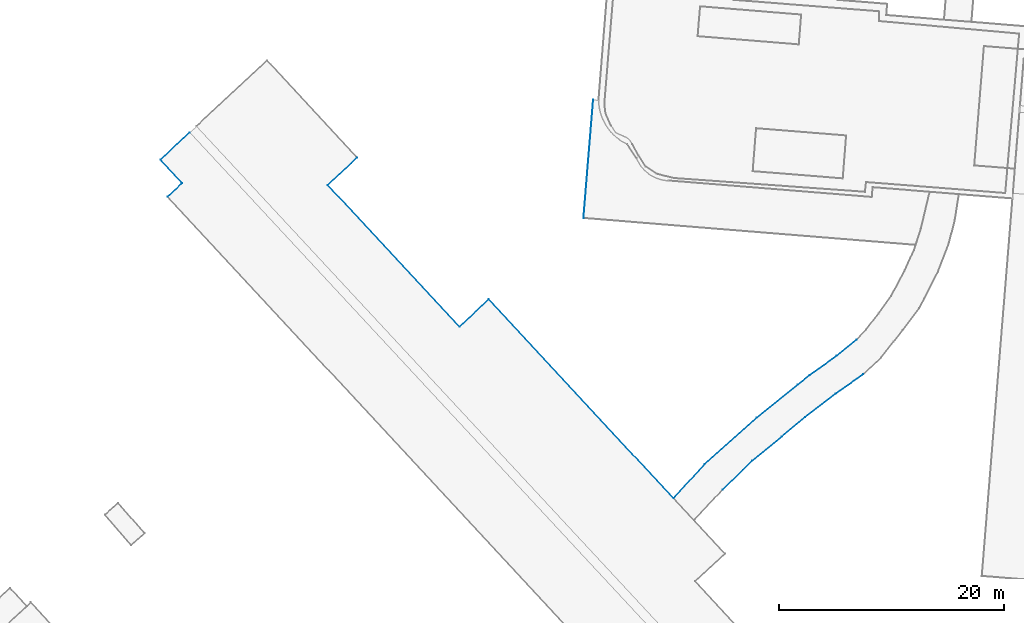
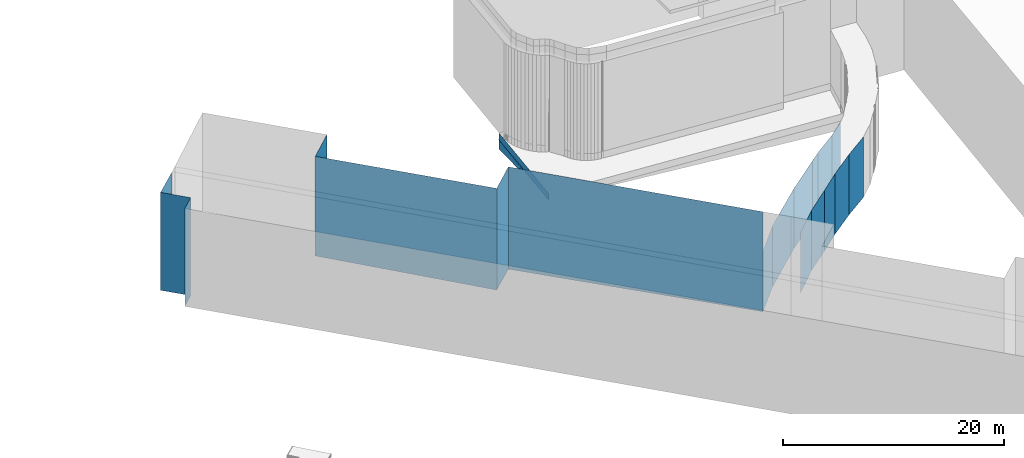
# Not in any storey, part 33 of 136: 21 walls.
"""IFC4 building model written with IfcOpenShell, lengths in metres."""

from ifc_helpers import new_model, entity, si_unit, converted_unit, origin, place, context, subcontext, project, spatial, face_set, surface_model, element, save


model = new_model("IFC4")

# Units and contexts
model_context = context("Model", 3, precision=1e-05, world=origin())
body_context = subcontext(model_context, "Body", "Model", "MODEL_VIEW")
ifc_project = project(units=[converted_unit("PLANEANGLEUNIT", "DEGREE", entity("IfcRatioMeasure", 0.0174532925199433), si_unit("PLANEANGLEUNIT", "RADIAN"), dimensions=[0, 0, 0, 0, 0, 0, 0]), si_unit("AREAUNIT", "SQUARE_METRE"), si_unit("LENGTHUNIT", "METRE")], contexts=[model_context])

# Site, building
site_placement = place(None, origin())
site = spatial("IfcSite", under=ifc_project, at=site_placement, Name="_site")
building_1_placement = place(site_placement, origin())
building_1 = spatial("IfcBuilding", under=site, at=building_1_placement, Name="_building")

# Walls
wall_1_placement = place(building_1_placement, origin())
element("IfcWall", 1, at=wall_1_placement, inside=building_1, Name="Wall", PredefinedType="NOTDEFINED", context=body_context, shape_type="SurfaceModel", body=[
    surface_model("IfcFaceBasedSurfaceModel", [(136.9, 51.021, 48.81), (138.21, 52.24, 48.81), (138.21, 52.24, 38.0), (136.9, 51.021, 38.0)], [face_set([[[0, 1, 2, 3]]])]),
])
wall_2_placement = place(building_1_placement, origin())
element("IfcWall", 2, at=wall_2_placement, inside=building_1, Name="Wall", PredefinedType="NOTDEFINED", context=body_context, shape_type="SurfaceModel", body=[
    surface_model("IfcFaceBasedSurfaceModel", [(165.41, 41.91, 48.95), (181.81, 24.26, 48.95), (181.81, 24.26, 37.91), (165.41, 41.91, 37.647)], [face_set([[[0, 1, 2, 3]]])]),
])
wall_3_placement = place(building_1_placement, origin())
element("IfcWall", 3, at=wall_3_placement, inside=building_1, Name="Wall", PredefinedType="NOTDEFINED", context=body_context, shape_type="SurfaceModel", body=[
    surface_model("IfcFaceBasedSurfaceModel", [(151.12, 52.07, 48.95), (162.81, 39.49, 48.95), (162.81, 39.49, 37.717), (151.12, 52.07, 37.955)], [face_set([[[0, 1, 2, 3]]])]),
])
wall_4_placement = place(building_1_placement, origin())
element("IfcWall", 4, at=wall_4_placement, inside=building_1, Name="Wall", PredefinedType="NOTDEFINED", context=body_context, shape_type="SurfaceModel", body=[
    surface_model("IfcFaceBasedSurfaceModel", [(136.27, 54.32, 48.81), (138.87, 56.73, 48.72), (138.87, 56.73, 37.988), (136.27, 54.32, 38.0)], [face_set([[[0, 1, 2, 3]]])]),
])
wall_5_placement = place(building_1_placement, origin())
element("IfcWall", 5, at=wall_5_placement, inside=building_1, Name="Wall", PredefinedType="NOTDEFINED", context=body_context, shape_type="SurfaceModel", body=[
    surface_model("IfcFaceBasedSurfaceModel", [(153.74, 54.51, 48.95), (151.12, 52.07, 48.95), (151.12, 52.07, 37.955), (153.74, 54.51, 37.788)], [face_set([[[0, 1, 2, 3]]])]),
])
wall_6_placement = place(building_1_placement, origin())
element("IfcWall", 6, at=wall_6_placement, inside=building_1, Name="Wall", PredefinedType="NOTDEFINED", context=body_context, shape_type="SurfaceModel", body=[
    surface_model("IfcFaceBasedSurfaceModel", [(162.81, 39.49, 48.95), (165.41, 41.91, 48.95), (165.41, 41.91, 37.647), (162.81, 39.49, 37.717)], [face_set([[[0, 1, 2, 3]]])]),
])
wall_7_placement = place(building_1_placement, origin())
element("IfcWall", 7, at=wall_7_placement, inside=building_1, Name="Wall", PredefinedType="NOTDEFINED", context=body_context, shape_type="SurfaceModel", body=[
    surface_model("IfcFaceBasedSurfaceModel", [(138.21, 52.24, 48.81), (136.27, 54.32, 48.81), (136.27, 54.32, 38.0), (138.21, 52.24, 38.0)], [face_set([[[0, 1, 2, 3]]])]),
])

# Building
building_2_placement = place(site_placement, origin())
building_2 = spatial("IfcBuilding", under=site, at=building_2_placement, Name="_building")

# Walls
wall_8_placement = place(building_2_placement, origin())
element("IfcWall", 8, at=wall_8_placement, inside=building_2, Name="Wall", PredefinedType="NOTDEFINED", context=body_context, shape_type="SurfaceModel", body=[
    surface_model("IfcFaceBasedSurfaceModel", [(196.29, 36.9, 44.65), (198.06, 38.351, 44.65), (198.06, 38.351, 38.0), (196.29, 36.9, 38.0)], [face_set([[[0, 1, 2, 3]]])]),
])
wall_9_placement = place(building_2_placement, origin())
element("IfcWall", 9, at=wall_9_placement, inside=building_2, Name="Wall", PredefinedType="NOTDEFINED", context=body_context, shape_type="SurfaceModel", body=[
    surface_model("IfcFaceBasedSurfaceModel", [(184.58, 27.3, 44.65), (189.19, 31.4, 44.65), (189.19, 31.4, 38.0), (184.58, 27.3, 37.857)], [face_set([[[0, 1, 2, 3]]])]),
])
wall_10_placement = place(building_2_placement, origin())
element("IfcWall", 10, at=wall_10_placement, inside=building_2, Name="Wall", PredefinedType="NOTDEFINED", context=body_context, shape_type="SurfaceModel", body=[
    surface_model("IfcFaceBasedSurfaceModel", [(173.81, 49.13, 37.93), (174.67, 59.64, 37.93), (174.67, 59.64, 36.93), (173.81, 49.13, 37.916)], [face_set([[[0, 1, 2, 3]]])]),
])
wall_11_placement = place(building_2_placement, origin())
element("IfcWall", 11, at=wall_11_placement, inside=building_2, Name="Wall", PredefinedType="NOTDEFINED", context=body_context, shape_type="SurfaceModel", body=[
    surface_model("IfcFaceBasedSurfaceModel", [(192.82, 34.33, 44.65), (193.89, 35.19, 44.65), (193.89, 35.19, 38.0), (192.82, 34.33, 38.0)], [face_set([[[0, 1, 2, 3]]])]),
])
wall_12_placement = place(building_2_placement, origin())
element("IfcWall", 12, at=wall_12_placement, inside=building_2, Name="Wall", PredefinedType="NOTDEFINED", context=body_context, shape_type="SurfaceModel", body=[
    surface_model("IfcFaceBasedSurfaceModel", [(198.65, 35.26, 44.65), (196.18, 33.55, 44.65), (196.18, 33.55, 37.977), (198.65, 35.26, 37.971)], [face_set([[[0, 1, 2, 3]]])]),
])
wall_13_placement = place(building_2_placement, origin())
element("IfcWall", 13, at=wall_13_placement, inside=building_2, Name="Wall", PredefinedType="NOTDEFINED", context=body_context, shape_type="SurfaceModel", body=[
    surface_model("IfcFaceBasedSurfaceModel", [(188.79, 27.58, 44.65), (186.17, 25.04, 44.65), (186.17, 25.04, 37.935), (188.79, 27.58, 37.992)], [face_set([[[0, 1, 2, 3]]])]),
])
wall_14_placement = place(building_2_placement, origin())
element("IfcWall", 14, at=wall_14_placement, inside=building_2, Name="Wall", PredefinedType="NOTDEFINED", context=body_context, shape_type="SurfaceModel", body=[
    surface_model("IfcFaceBasedSurfaceModel", [(193.89, 35.19, 44.65), (196.29, 36.9, 44.65), (196.29, 36.9, 38.0), (193.89, 35.19, 38.0)], [face_set([[[0, 1, 2, 3]]])]),
])
wall_15_placement = place(building_2_placement, origin())
element("IfcWall", 15, at=wall_15_placement, inside=building_2, Name="Wall", PredefinedType="NOTDEFINED", context=body_context, shape_type="SurfaceModel", body=[
    surface_model("IfcFaceBasedSurfaceModel", [(189.19, 31.4, 44.65), (192.82, 34.33, 44.65), (192.82, 34.33, 38.0), (189.19, 31.4, 38.0)], [face_set([[[0, 1, 2, 3]]])]),
])
wall_16_placement = place(building_2_placement, origin())
element("IfcWall", 16, at=wall_16_placement, inside=building_2, Name="Wall", PredefinedType="NOTDEFINED", context=body_context, shape_type="SurfaceModel", body=[
    surface_model("IfcFaceBasedSurfaceModel", [(173.81, 49.13, 37.93), (174.67, 59.64, 37.93), (174.67, 59.64, 38.68), (173.81, 49.13, 38.68)], [face_set([[[0, 1, 2, 3]]])]),
])
wall_17_placement = place(building_2_placement, origin())
element("IfcWall", 17, at=wall_17_placement, inside=building_2, Name="Wall", PredefinedType="NOTDEFINED", context=body_context, shape_type="SurfaceModel", body=[
    surface_model("IfcFaceBasedSurfaceModel", [(193.48, 31.48, 44.65), (191.38, 29.71, 44.65), (191.38, 29.71, 37.971), (193.48, 31.48, 37.976)], [face_set([[[0, 1, 2, 3]]])]),
])
wall_18_placement = place(building_2_placement, origin())
element("IfcWall", 18, at=wall_18_placement, inside=building_2, Name="Wall", PredefinedType="NOTDEFINED", context=body_context, shape_type="SurfaceModel", body=[
    surface_model("IfcFaceBasedSurfaceModel", [(196.18, 33.55, 44.65), (193.48, 31.48, 44.65), (193.48, 31.48, 37.976), (196.18, 33.55, 37.977)], [face_set([[[0, 1, 2, 3]]])]),
])
wall_19_placement = place(building_2_placement, origin())
element("IfcWall", 19, at=wall_19_placement, inside=building_2, Name="Wall", PredefinedType="NOTDEFINED", context=body_context, shape_type="SurfaceModel", body=[
    surface_model("IfcFaceBasedSurfaceModel", [(173.81, 49.13, 37.93), (174.67, 59.64, 37.93), (174.67, 59.64, 38.68), (173.81, 49.13, 38.68)], [face_set([[[0, 1, 2, 3]]])]),
])
wall_20_placement = place(building_2_placement, origin())
element("IfcWall", 20, at=wall_20_placement, inside=building_2, Name="Wall", PredefinedType="NOTDEFINED", context=body_context, shape_type="SurfaceModel", body=[
    surface_model("IfcFaceBasedSurfaceModel", [(191.38, 29.71, 44.65), (188.79, 27.58, 44.65), (188.79, 27.58, 37.992), (191.38, 29.71, 37.971)], [face_set([[[0, 1, 2, 3]]])]),
])
wall_21_placement = place(building_2_placement, origin())
element("IfcWall", 21, at=wall_21_placement, inside=building_2, Name="Wall", PredefinedType="NOTDEFINED", context=body_context, shape_type="SurfaceModel", body=[
    surface_model("IfcFaceBasedSurfaceModel", [(181.81, 24.26, 44.65), (184.58, 27.3, 44.65), (184.58, 27.3, 37.857), (181.81, 24.26, 37.91)], [face_set([[[0, 1, 2, 3]]])]),
])

save(model, "model.ifc")
